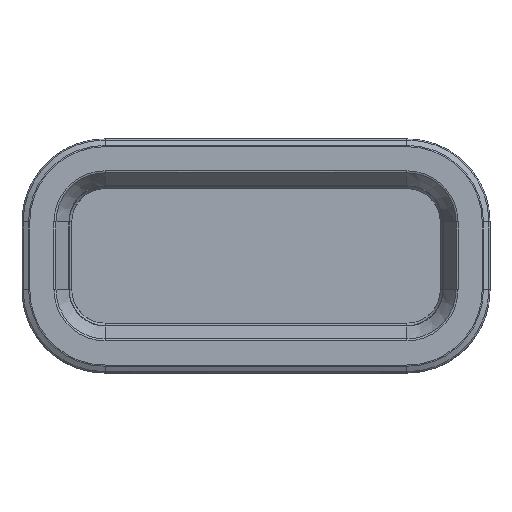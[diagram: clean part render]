
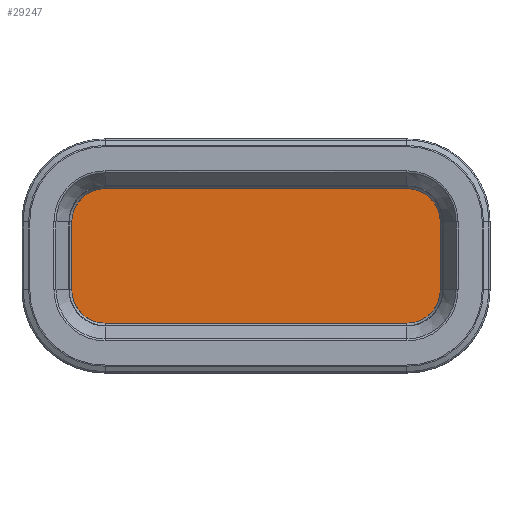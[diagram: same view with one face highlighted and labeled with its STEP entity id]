
A CAD part, top view. The second image highlights one B-rep face of the part: STEP entity #29247.
In plain terms, the highlighted planar face has unit normal (0, 0, 1) as drawn and (0, 0, -1) by its records, which use the part's own axes.
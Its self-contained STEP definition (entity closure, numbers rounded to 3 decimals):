
#28952=DIRECTION('',(1.,0.,0.));
#28953=VECTOR('',#28952,258.);
#28954=CARTESIAN_POINT('',(37.,0.,0.));
#28955=LINE('',#28954,#28953);
#28956=CARTESIAN_POINT('',(295.,37.,0.));
#28957=DIRECTION('',(0.,0.,1.));
#28958=DIRECTION('',(0.,-1.,0.));
#28959=AXIS2_PLACEMENT_3D('',#28956,#28957,#28958);
#28961=DIRECTION('',(0.,1.,0.));
#28962=VECTOR('',#28961,58.);
#28963=CARTESIAN_POINT('',(332.,37.,0.));
#28964=LINE('',#28963,#28962);
#28965=CARTESIAN_POINT('',(295.,95.,0.));
#28966=DIRECTION('',(0.,0.,1.));
#28967=DIRECTION('',(1.,0.,0.));
#28968=AXIS2_PLACEMENT_3D('',#28965,#28966,#28967);
#28970=DIRECTION('',(-1.,0.,0.));
#28971=VECTOR('',#28970,258.);
#28972=CARTESIAN_POINT('',(295.,132.,0.));
#28973=LINE('',#28972,#28971);
#28974=CARTESIAN_POINT('',(37.,95.,0.));
#28975=DIRECTION('',(0.,0.,1.));
#28976=DIRECTION('',(0.,1.,0.));
#28977=AXIS2_PLACEMENT_3D('',#28974,#28975,#28976);
#28979=DIRECTION('',(0.,-1.,0.));
#28980=VECTOR('',#28979,58.);
#28981=CARTESIAN_POINT('',(0.,95.,0.));
#28982=LINE('',#28981,#28980);
#28983=CARTESIAN_POINT('',(37.,37.,0.));
#28984=DIRECTION('',(0.,0.,1.));
#28985=DIRECTION('',(-1.,0.,0.));
#28986=AXIS2_PLACEMENT_3D('',#28983,#28984,#28985);
#29160=CARTESIAN_POINT('',(37.,0.,0.));
#29161=CARTESIAN_POINT('',(295.,0.,0.));
#29162=VERTEX_POINT('',#29160);
#29163=VERTEX_POINT('',#29161);
#29164=CARTESIAN_POINT('',(332.,37.,0.));
#29165=VERTEX_POINT('',#29164);
#29166=CARTESIAN_POINT('',(332.,95.,0.));
#29167=VERTEX_POINT('',#29166);
#29168=CARTESIAN_POINT('',(295.,132.,0.));
#29169=VERTEX_POINT('',#29168);
#29170=CARTESIAN_POINT('',(37.,132.,0.));
#29171=VERTEX_POINT('',#29170);
#29172=CARTESIAN_POINT('',(0.,95.,0.));
#29173=VERTEX_POINT('',#29172);
#29174=CARTESIAN_POINT('',(0.,37.,0.));
#29175=VERTEX_POINT('',#29174);
#29224=CARTESIAN_POINT('',(0.,0.,0.));
#29225=DIRECTION('',(0.,0.,1.));
#29226=DIRECTION('',(1.,0.,0.));
#29227=AXIS2_PLACEMENT_3D('',#29224,#29225,#29226);
#29228=PLANE('',#29227);
#29230=ORIENTED_EDGE('',*,*,#29229,.T.);
#29232=ORIENTED_EDGE('',*,*,#29231,.T.);
#29234=ORIENTED_EDGE('',*,*,#29233,.T.);
#29236=ORIENTED_EDGE('',*,*,#29235,.T.);
#29238=ORIENTED_EDGE('',*,*,#29237,.T.);
#29240=ORIENTED_EDGE('',*,*,#29239,.T.);
#29242=ORIENTED_EDGE('',*,*,#29241,.T.);
#29244=ORIENTED_EDGE('',*,*,#29243,.T.);
#29245=EDGE_LOOP('',(#29230,#29232,#29234,#29236,#29238,#29240,#29242,#29244));
#29246=FACE_OUTER_BOUND('',#29245,.F.);
#29247=ADVANCED_FACE('',(#29246),#29228,.F.);
#28960=CIRCLE('',#28959,37.);
#28969=CIRCLE('',#28968,37.);
#28978=CIRCLE('',#28977,37.);
#28987=CIRCLE('',#28986,37.);
#29229=EDGE_CURVE('',#29162,#29163,#28955,.T.);
#29231=EDGE_CURVE('',#29163,#29165,#28960,.T.);
#29233=EDGE_CURVE('',#29165,#29167,#28964,.T.);
#29235=EDGE_CURVE('',#29167,#29169,#28969,.T.);
#29237=EDGE_CURVE('',#29169,#29171,#28973,.T.);
#29239=EDGE_CURVE('',#29171,#29173,#28978,.T.);
#29241=EDGE_CURVE('',#29173,#29175,#28982,.T.);
#29243=EDGE_CURVE('',#29175,#29162,#28987,.T.);
